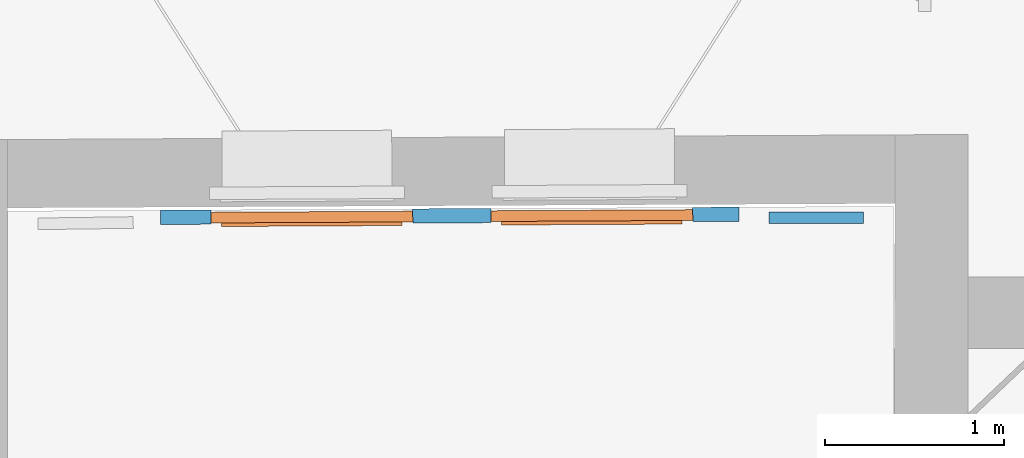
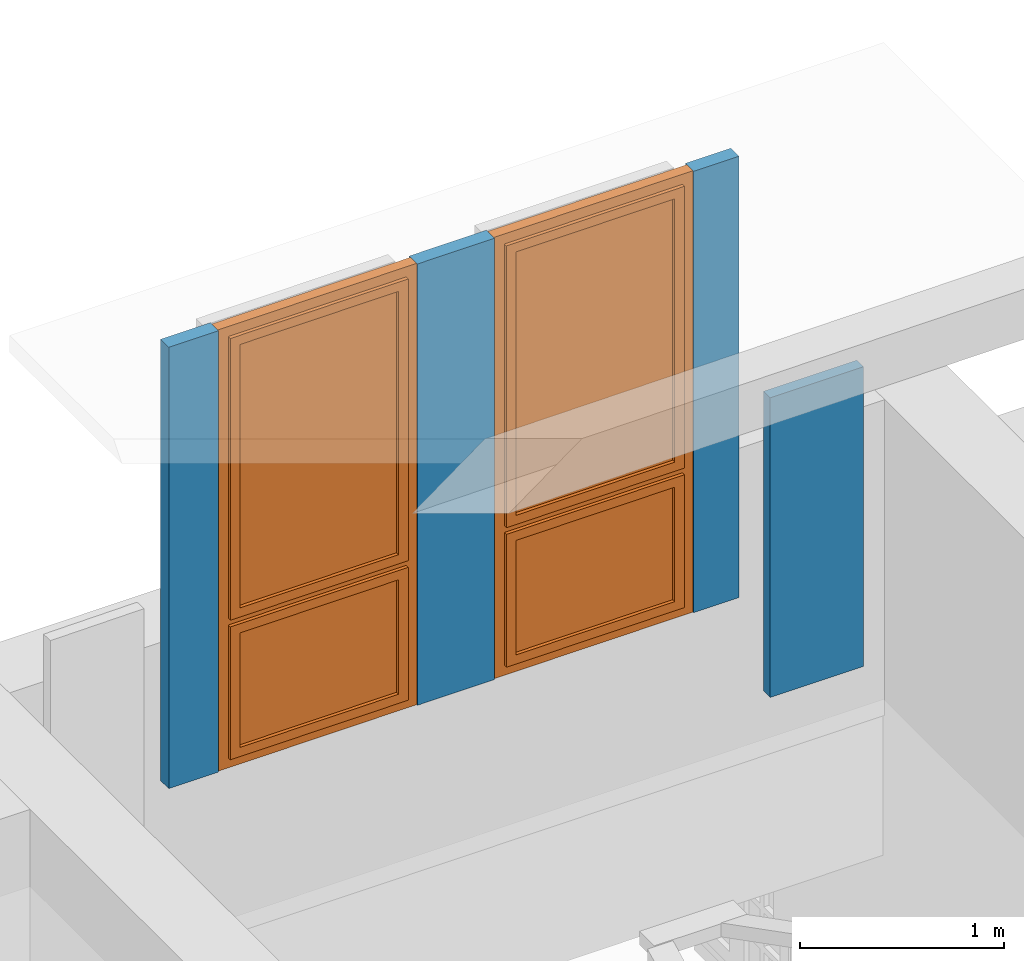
# One storey, part 37 of 158: 2 proxies, 2 walls, 2 openings.
"""IFC2X3 building model written with IfcOpenShell, lengths in metres."""

from ifc_helpers import new_model, entity, si_unit, converted_unit, derived_unit, money_unit, direction, frame, origin_with_axes, origin_2d_with_axis, place, context, subcontext, project, spatial, polyline, rectangle, outline, extrude, faceted_brep, source, transform, mapped, material, layer, layer_set, layer_usage, type_object, element, fill, save


model = new_model("IFC2X3")

# Units and contexts
model_context = context("Model", 3, precision=1e-05, world=origin_with_axes(), true_north=direction((0.0, 1.0)))
body_context = subcontext(model_context, "Body", "Model", "MODEL_VIEW")
ifc_project = project(units=[si_unit("LENGTHUNIT", "METRE"), si_unit("AREAUNIT", "SQUARE_METRE"), si_unit("VOLUMEUNIT", "CUBIC_METRE"), converted_unit("PLANEANGLEUNIT", "DEGREE", entity("IfcPlaneAngleMeasure", 0.0174532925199), si_unit("PLANEANGLEUNIT", "RADIAN"), dimensions=[0, 0, 0, 0, 0, 0, 0]), money_unit("EUR"), converted_unit("TIMEUNIT", "Year", entity("IfcTimeMeasure", 31556926.0), si_unit("TIMEUNIT", "SECOND"), dimensions=[0, 0, 1, 0, 0, 0, 0]), si_unit("MASSUNIT", "GRAM", prefix="KILO"), si_unit("THERMODYNAMICTEMPERATUREUNIT", "DEGREE_CELSIUS"), si_unit("LUMINOUSINTENSITYUNIT", "LUMEN"), si_unit("ENERGYUNIT", "JOULE", prefix="MEGA"), derived_unit("THERMALCONDUCTANCEUNIT", [(si_unit("POWERUNIT", "WATT"), 1), (si_unit("LENGTHUNIT", "METRE"), -1), (si_unit("THERMODYNAMICTEMPERATUREUNIT", "KELVIN"), -1)]), derived_unit("SPECIFICHEATCAPACITYUNIT", [(si_unit("ENERGYUNIT", "JOULE"), 1), (si_unit("MASSUNIT", "GRAM", prefix="KILO"), -1), (si_unit("THERMODYNAMICTEMPERATUREUNIT", "KELVIN"), -1)]), derived_unit("MASSDENSITYUNIT", [(si_unit("MASSUNIT", "GRAM", prefix="KILO"), 1), (si_unit("VOLUMEUNIT", "CUBIC_METRE"), -1)])], contexts=[model_context])

# Site, building, storey
site_placement = place(None, origin_with_axes())
site = spatial("IfcSite", under=ifc_project, at=site_placement, Name="Gelände", CompositionType="ELEMENT")
building_placement = place(site_placement, origin_with_axes())
building = spatial("IfcBuilding", under=site, at=building_placement, Name="Gebäude", CompositionType="ELEMENT")
storey_placement = place(building_placement, origin_with_axes())
storey = spatial("IfcBuildingStorey", under=building, at=storey_placement, Name="ERDGESCHOSS", CompositionType="ELEMENT", Elevation=0.0)

# Wall
ifc_material_1 = material(Name="01_ALLGEMEIN - BAUTEIL")
ifc_layer_1 = layer(ifc_material_1, 0.065, ventilated="UNKNOWN")
ifc_layer_set_1 = layer_set([ifc_layer_1], Name="01_ALLGEMEIN - BAUTEIL 0.065")
ifc_layer_usage_1 = layer_usage(ifc_layer_set_1, "AXIS2", "NEGATIVE", 0.065)
wall_type_1 = type_object("IfcWallType", Name="01_ALLGEMEIN - BAUTEIL 65", PredefinedType="ELEMENTEDWALL")
wall_1_placement = place(storey_placement, frame((-5.57648527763, 26.359355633, 2.12303225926), z_axis=(0.0, 0.0, 1.0), x_axis=(0.999995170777, 0.00310780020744, 0.0)))
element("IfcWallStandardCase", 1, at=wall_1_placement, inside=storey, type_object=wall_type_1, material=ifc_layer_usage_1, Name="Wand-036", ObjectType="ELEMENTEDWALL", context=body_context, shape_type="SweptSolid", body=[
    extrude(outline(polyline([(0.0, 0.0), (0.528797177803, 0.0), (0.528797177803, 0.065), (0.0, 0.065), (0.0, 0.0)])), origin_with_axes(), (0.0, 0.0, 1.0), 1.793452),
])

# Wall, openings, proxies
ifc_material_2 = material(Name="05_ALLGEMEIN - TRAGENDE BAUTEILE")
ifc_layer_2 = layer(ifc_material_2, 0.08, ventilated="UNKNOWN")
ifc_layer_set_2 = layer_set([ifc_layer_2], Name="05_ALLGEMEIN - TRAGENDE BAUTEILE 0.08")
ifc_layer_usage_2 = layer_usage(ifc_layer_set_2, "AXIS2", "NEGATIVE", 0.0)
wall_type_2 = type_object("IfcWallType", Name="05_ALLGEMEIN - TRAGENDE BAUTEILE 80", PredefinedType="ELEMENTEDWALL")
wall_2_placement = place(storey_placement, frame((-5.74501892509, 26.3722861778, 2.77233725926), z_axis=(0.0, 0.0, 1.0), x_axis=(-0.999985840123, -0.00532161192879, 0.0)))
wall_2 = element("IfcWallStandardCase", 2, at=wall_2_placement, inside=storey, type_object=wall_type_2, material=ifc_layer_usage_2, Name="Wand-038", ObjectType="ELEMENTEDWALL", context=body_context, shape_type="SweptSolid", body=[
    extrude(outline(polyline([(0.0, -0.08), (3.23889345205, -0.08), (3.23889345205, 0.0), (0.0, 0.0), (0.0, -0.08)])), origin_with_axes(), (0.0, 0.0, 1.0), 2.641627),
])
opening_1_placement = place(wall_2_placement, frame((0.823615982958, 0.0, 0.0), z_axis=(0.0, 0.0, 1.0), x_axis=(1.0, 0.0, 0.0)))
opening_1 = element("IfcOpeningElement", 3, at=opening_1_placement, cuts=wall_2, Name="Fenster-017", context=body_context, shape_type="SweptSolid", body=[
    extrude(rectangle(XDim=1.13039210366, YDim=2.641627, at=origin_2d_with_axis()), frame((0.0, -0.00677127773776, 1.3208135), z_axis=(0.0, -1.0, 0.0), x_axis=(-1.0, 0.0, 0.0)), (0.0, 0.0, 1.0), 0.153228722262),
    extrude(rectangle(XDim=1.13039210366, YDim=2.641627, at=origin_2d_with_axis()), frame((0.0, -0.00677127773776, 1.3208135), z_axis=(0.0, 1.0, 0.0), x_axis=(-1.0, 0.0, 0.0)), (0.0, 0.0, 1.0), 0.0867712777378),
])
opening_2_placement = place(wall_2_placement, frame((2.39189882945, 0.0, 0.0), z_axis=(0.0, 0.0, 1.0), x_axis=(1.0, 0.0, 0.0)))
opening_2 = element("IfcOpeningElement", 4, at=opening_2_placement, cuts=wall_2, Name="Fenster-017", context=body_context, shape_type="SweptSolid", body=[
    extrude(rectangle(XDim=1.13039210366, YDim=2.641627, at=origin_2d_with_axis()), frame((0.0, -0.00677127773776, 1.3208135), z_axis=(0.0, -1.0, 0.0), x_axis=(-1.0, 0.0, 0.0)), (0.0, 0.0, 1.0), 0.153228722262),
    extrude(rectangle(XDim=1.13039210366, YDim=2.641627, at=origin_2d_with_axis()), frame((0.0, -0.00677127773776, 1.3208135), z_axis=(0.0, 1.0, 0.0), x_axis=(-1.0, 0.0, 0.0)), (0.0, 0.0, 1.0), 0.0867712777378),
])
building_element_proxy_type = type_object("IfcBuildingElementProxyType", Name="1-Flügelfenster 25", PredefinedType="NOTDEFINED")
shared_shape = source(origin_with_axes(), body_context, "Body", "Brep", [
    faceted_brep([(0.565196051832, -0.06, 0.0), (0.485196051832, -0.06, 0.08), (0.485196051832, 0.0, 0.08), (0.565196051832, 0.0, 0.0), (0.565196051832, -0.06, 2.641627), (0.485196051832, -0.06, 2.561627), (0.485196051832, -0.06, 0.915245), (0.485196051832, -0.06, 0.835245), (0.485196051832, 0.0, 0.835245), (0.485196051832, 0.0, 0.915245), (0.485196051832, 0.0, 2.561627), (0.565196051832, 0.0, 2.641627)], [[[0, 1, 2, 3]], [[0, 4, 5, 6, 7, 1]], [[1, 7, 8, 2]], [[3, 2, 8, 9, 10, 11]], [[4, 0, 3, 11]], [[5, 4, 11, 10]], [[6, 5, 10, 9]], [[7, 6, 9, 8]]]),
    faceted_brep([(-0.565196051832, -0.06, 0.0), (-0.565196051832, -0.06, 2.641627), (-0.565196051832, 0.0, 2.641627), (-0.565196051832, 0.0, 0.0), (-0.485196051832, -0.06, 0.08), (-0.485196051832, -0.06, 0.835245), (-0.485196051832, -0.06, 0.915245), (-0.485196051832, -0.06, 2.561627), (-0.485196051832, 0.0, 2.561627), (-0.485196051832, 0.0, 0.915245), (-0.485196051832, 0.0, 0.835245), (-0.485196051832, 0.0, 0.08)], [[[0, 1, 2, 3]], [[0, 4, 5, 6, 7, 1]], [[1, 7, 8, 2]], [[3, 2, 8, 9, 10, 11]], [[4, 0, 3, 11]], [[5, 4, 11, 10]], [[6, 5, 10, 9]], [[7, 6, 9, 8]]]),
    faceted_brep([(0.565196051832, -0.06, 0.0), (-0.565196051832, -0.06, 0.0), (-0.565196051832, 0.0, 0.0), (0.565196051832, 0.0, 0.0), (0.485196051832, -0.06, 0.08), (-0.485196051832, -0.06, 0.08), (-0.485196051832, 0.0, 0.08), (0.485196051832, 0.0, 0.08)], [[[0, 1, 2, 3]], [[0, 4, 5, 1]], [[1, 5, 6, 2]], [[3, 2, 6, 7]], [[4, 0, 3, 7]], [[5, 4, 7, 6]]]),
    faceted_brep([(0.565196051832, -0.06, 2.641627), (0.485196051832, -0.06, 2.561627), (0.485196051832, 0.0, 2.561627), (0.565196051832, 0.0, 2.641627), (-0.565196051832, -0.06, 2.641627), (-0.485196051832, -0.06, 2.561627), (-0.485196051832, 0.0, 2.561627), (-0.565196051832, 0.0, 2.641627)], [[[0, 1, 2, 3]], [[0, 4, 5, 1]], [[1, 5, 6, 2]], [[3, 2, 6, 7]], [[4, 0, 3, 7]], [[5, 4, 7, 6]]]),
    faceted_brep([(0.485196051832, -0.06, 0.835245), (0.0, -0.06, 0.835245), (0.0, 0.0, 0.835245), (0.485196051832, 0.0, 0.835245), (0.485196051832, -0.06, 0.915245), (-0.485196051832, -0.06, 0.915245), (-0.485196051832, -0.06, 0.835245), (-0.485196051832, 0.0, 0.835245), (-0.485196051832, 0.0, 0.915245), (0.485196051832, 0.0, 0.915245)], [[[0, 1, 2, 3]], [[0, 4, 5, 6, 1]], [[1, 6, 7, 2]], [[3, 2, 7, 8, 9]], [[4, 0, 3, 9]], [[5, 4, 9, 8]], [[6, 5, 8, 7]]]),
    faceted_brep([(0.505196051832, 0.0, 0.06), (0.450196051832, 0.0, 0.115), (0.450196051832, 0.02, 0.115), (0.505196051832, 0.02, 0.06), (0.505196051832, 0.0, 0.855245), (0.450196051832, 0.0, 0.800245), (0.450196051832, 0.02, 0.800245), (0.505196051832, 0.02, 0.855245)], [[[0, 1, 2, 3]], [[0, 4, 5, 1]], [[1, 5, 6, 2]], [[3, 2, 6, 7]], [[4, 0, 3, 7]], [[5, 4, 7, 6]]]),
    faceted_brep([(-0.505196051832, 0.0, 0.06), (-0.505196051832, 0.02, 0.06), (-0.450196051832, 0.02, 0.115), (-0.450196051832, 0.0, 0.115), (-0.505196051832, 0.0, 0.855245), (-0.505196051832, 0.02, 0.855245), (-0.450196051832, 0.02, 0.800245), (-0.450196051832, 0.0, 0.800245)], [[[0, 1, 2, 3]], [[4, 5, 1, 0]], [[1, 5, 6, 2]], [[3, 2, 6, 7]], [[0, 3, 7, 4]], [[7, 6, 5, 4]]]),
    faceted_brep([(0.505196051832, 0.0, 0.06), (-0.505196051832, 0.0, 0.06), (-0.505196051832, 0.02, 0.06), (0.505196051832, 0.02, 0.06), (0.450196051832, 0.0, 0.115), (-0.450196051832, 0.0, 0.115), (-0.450196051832, 0.02, 0.115), (0.450196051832, 0.02, 0.115)], [[[0, 1, 2, 3]], [[0, 4, 5, 1]], [[1, 5, 6, 2]], [[3, 2, 6, 7]], [[4, 0, 3, 7]], [[5, 4, 7, 6]]]),
    faceted_brep([(0.505196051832, 0.0, 0.855245), (0.505196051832, 0.02, 0.855245), (-0.505196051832, 0.02, 0.855245), (-0.505196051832, 0.0, 0.855245), (0.450196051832, 0.0, 0.800245), (0.450196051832, 0.02, 0.800245), (-0.450196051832, 0.02, 0.800245), (-0.450196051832, 0.0, 0.800245)], [[[0, 1, 2, 3]], [[4, 5, 1, 0]], [[1, 5, 6, 2]], [[3, 2, 6, 7]], [[0, 3, 7, 4]], [[7, 6, 5, 4]]]),
    faceted_brep([(0.485196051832, -0.03, 0.08), (0.450196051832, -0.03, 0.115), (0.450196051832, 0.0, 0.115), (0.485196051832, 0.0, 0.08), (0.485196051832, -0.03, 0.835245), (0.450196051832, -0.03, 0.800245), (0.450196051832, 0.0, 0.800245), (0.485196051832, 0.0, 0.835245)], [[[0, 1, 2, 3]], [[0, 4, 5, 1]], [[1, 5, 6, 2]], [[3, 2, 6, 7]], [[4, 0, 3, 7]], [[5, 4, 7, 6]]]),
    faceted_brep([(-0.485196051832, -0.03, 0.08), (-0.485196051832, 0.0, 0.08), (-0.450196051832, 0.0, 0.115), (-0.450196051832, -0.03, 0.115), (-0.485196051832, -0.03, 0.835245), (-0.485196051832, 0.0, 0.835245), (-0.450196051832, 0.0, 0.800245), (-0.450196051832, -0.03, 0.800245)], [[[0, 1, 2, 3]], [[4, 5, 1, 0]], [[1, 5, 6, 2]], [[3, 2, 6, 7]], [[0, 3, 7, 4]], [[7, 6, 5, 4]]]),
    faceted_brep([(0.485196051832, -0.03, 0.08), (-0.485196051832, -0.03, 0.08), (-0.485196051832, 0.0, 0.08), (0.485196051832, 0.0, 0.08), (0.450196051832, -0.03, 0.115), (-0.450196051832, -0.03, 0.115), (-0.450196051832, 0.0, 0.115), (0.450196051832, 0.0, 0.115)], [[[0, 1, 2, 3]], [[0, 4, 5, 1]], [[1, 5, 6, 2]], [[3, 2, 6, 7]], [[4, 0, 3, 7]], [[5, 4, 7, 6]]]),
    faceted_brep([(0.485196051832, -0.03, 0.835245), (0.485196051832, 0.0, 0.835245), (-0.485196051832, 0.0, 0.835245), (-0.485196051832, -0.03, 0.835245), (0.450196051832, -0.03, 0.800245), (0.450196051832, 0.0, 0.800245), (-0.450196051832, 0.0, 0.800245), (-0.450196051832, -0.03, 0.800245)], [[[0, 1, 2, 3]], [[4, 5, 1, 0]], [[1, 5, 6, 2]], [[3, 2, 6, 7]], [[0, 3, 7, 4]], [[7, 6, 5, 4]]]),
    faceted_brep([(0.450196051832, -0.01, 0.115), (-0.450196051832, -0.01, 0.115), (-0.450196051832, 0.0, 0.115), (0.450196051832, 0.0, 0.115), (0.450196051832, -0.01, 0.800245), (-0.450196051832, -0.01, 0.800245), (-0.450196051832, 0.0, 0.800245), (0.450196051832, 0.0, 0.800245)], [[[0, 1, 2, 3]], [[0, 4, 5, 1]], [[1, 5, 6, 2]], [[3, 2, 6, 7]], [[4, 0, 3, 7]], [[5, 4, 7, 6]]]),
    faceted_brep([(0.505196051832, 0.0, 0.895245), (0.450196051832, 0.0, 0.950245), (0.450196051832, 0.02, 0.950245), (0.505196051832, 0.02, 0.895245), (0.505196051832, 0.0, 2.581627), (0.450196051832, 0.0, 2.526627), (0.450196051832, 0.02, 2.526627), (0.505196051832, 0.02, 2.581627)], [[[0, 1, 2, 3]], [[0, 4, 5, 1]], [[1, 5, 6, 2]], [[3, 2, 6, 7]], [[4, 0, 3, 7]], [[5, 4, 7, 6]]]),
    faceted_brep([(-0.505196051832, 0.0, 0.895245), (-0.505196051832, 0.02, 0.895245), (-0.450196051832, 0.02, 0.950245), (-0.450196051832, 0.0, 0.950245), (-0.505196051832, 0.0, 2.581627), (-0.505196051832, 0.02, 2.581627), (-0.450196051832, 0.02, 2.526627), (-0.450196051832, 0.0, 2.526627)], [[[0, 1, 2, 3]], [[4, 5, 1, 0]], [[1, 5, 6, 2]], [[3, 2, 6, 7]], [[0, 3, 7, 4]], [[7, 6, 5, 4]]]),
    faceted_brep([(0.505196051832, 0.0, 0.895245), (-0.505196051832, 0.0, 0.895245), (-0.505196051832, 0.02, 0.895245), (0.505196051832, 0.02, 0.895245), (0.450196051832, 0.0, 0.950245), (-0.450196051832, 0.0, 0.950245), (-0.450196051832, 0.02, 0.950245), (0.450196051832, 0.02, 0.950245)], [[[0, 1, 2, 3]], [[0, 4, 5, 1]], [[1, 5, 6, 2]], [[3, 2, 6, 7]], [[4, 0, 3, 7]], [[5, 4, 7, 6]]]),
    faceted_brep([(0.505196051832, 0.0, 2.581627), (0.505196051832, 0.02, 2.581627), (-0.505196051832, 0.02, 2.581627), (-0.505196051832, 0.0, 2.581627), (0.450196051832, 0.0, 2.526627), (0.450196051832, 0.02, 2.526627), (-0.450196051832, 0.02, 2.526627), (-0.450196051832, 0.0, 2.526627)], [[[0, 1, 2, 3]], [[4, 5, 1, 0]], [[1, 5, 6, 2]], [[3, 2, 6, 7]], [[0, 3, 7, 4]], [[7, 6, 5, 4]]]),
    faceted_brep([(0.485196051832, -0.03, 0.915245), (0.450196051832, -0.03, 0.950245), (0.450196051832, 0.0, 0.950245), (0.485196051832, 0.0, 0.915245), (0.485196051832, -0.03, 2.561627), (0.450196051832, -0.03, 2.526627), (0.450196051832, 0.0, 2.526627), (0.485196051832, 0.0, 2.561627)], [[[0, 1, 2, 3]], [[0, 4, 5, 1]], [[1, 5, 6, 2]], [[3, 2, 6, 7]], [[4, 0, 3, 7]], [[5, 4, 7, 6]]]),
    faceted_brep([(-0.485196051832, -0.03, 0.915245), (-0.485196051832, 0.0, 0.915245), (-0.450196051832, 0.0, 0.950245), (-0.450196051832, -0.03, 0.950245), (-0.485196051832, -0.03, 2.561627), (-0.485196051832, 0.0, 2.561627), (-0.450196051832, 0.0, 2.526627), (-0.450196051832, -0.03, 2.526627)], [[[0, 1, 2, 3]], [[4, 5, 1, 0]], [[1, 5, 6, 2]], [[3, 2, 6, 7]], [[0, 3, 7, 4]], [[7, 6, 5, 4]]]),
    faceted_brep([(0.485196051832, -0.03, 0.915245), (-0.485196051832, -0.03, 0.915245), (-0.485196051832, 0.0, 0.915245), (0.485196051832, 0.0, 0.915245), (0.450196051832, -0.03, 0.950245), (-0.450196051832, -0.03, 0.950245), (-0.450196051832, 0.0, 0.950245), (0.450196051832, 0.0, 0.950245)], [[[0, 1, 2, 3]], [[0, 4, 5, 1]], [[1, 5, 6, 2]], [[3, 2, 6, 7]], [[4, 0, 3, 7]], [[5, 4, 7, 6]]]),
    faceted_brep([(0.485196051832, -0.03, 2.561627), (0.485196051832, 0.0, 2.561627), (-0.485196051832, 0.0, 2.561627), (-0.485196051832, -0.03, 2.561627), (0.450196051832, -0.03, 2.526627), (0.450196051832, 0.0, 2.526627), (-0.450196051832, 0.0, 2.526627), (-0.450196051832, -0.03, 2.526627)], [[[0, 1, 2, 3]], [[4, 5, 1, 0]], [[1, 5, 6, 2]], [[3, 2, 6, 7]], [[0, 3, 7, 4]], [[7, 6, 5, 4]]]),
    faceted_brep([(0.450196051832, -0.01, 0.950245), (-0.450196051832, -0.01, 0.950245), (-0.450196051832, 0.0, 0.950245), (0.450196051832, 0.0, 0.950245), (0.450196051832, -0.01, 2.526627), (-0.450196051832, -0.01, 2.526627), (-0.450196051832, 0.0, 2.526627), (0.450196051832, 0.0, 2.526627)], [[[0, 1, 2, 3]], [[0, 4, 5, 1]], [[1, 5, 6, 2]], [[3, 2, 6, 7]], [[4, 0, 3, 7]], [[5, 4, 7, 6]]]),
])
proxy_1_placement = place(opening_1_placement, frame((-0.565196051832, 0.0, 0.0), z_axis=(0.0, 0.0, 1.0), x_axis=(1.0, 0.0, 0.0)))
proxy_1 = element("IfcBuildingElementProxy", 5, at=proxy_1_placement, inside=storey, type_object=building_element_proxy_type, Name="Fenster-017", context=body_context, shape_type="MappedRepresentation", body=[
    mapped(shared_shape, transform((0.565196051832, -0.00677127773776, 0.0))),
])
fill(opening_1, proxy_1)
proxy_2_placement = place(opening_2_placement, frame((-0.565196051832, 0.0, 0.0), z_axis=(0.0, 0.0, 1.0), x_axis=(1.0, 0.0, 0.0)))
proxy_2 = element("IfcBuildingElementProxy", 6, at=proxy_2_placement, inside=storey, type_object=building_element_proxy_type, Name="Fenster-017", context=body_context, shape_type="MappedRepresentation", body=[
    mapped(shared_shape, transform((0.565196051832, -0.00677127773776, 0.0))),
])
fill(opening_2, proxy_2)

save(model, "model.ifc")
